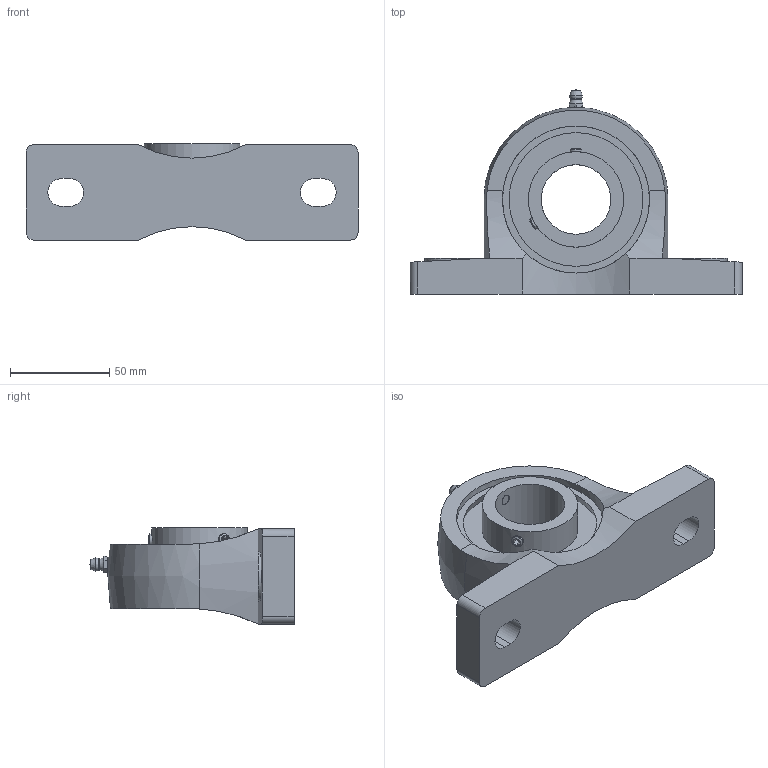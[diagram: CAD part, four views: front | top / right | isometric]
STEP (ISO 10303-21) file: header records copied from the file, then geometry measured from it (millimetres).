
FILE_DESCRIPTION(/* description */ (''),/* implementation_level */ '2;1');
FILE_NAME(/* name */ 'C:\Users\UGijyutu_200702\Desktop\09.プラスチックハウジング\MBPPL200V\MBPPL200V\MBPPL207V.stp',/* time_stamp */ '2023-02-10T13:59:28+09:00',/* author */ ('UGijyutu_200702'),/* organization */ (''),/* preprocessor_version */ 'ST-DEVELOPER v18',/* originating_system */ 'Autodesk Inventor 2020',/* authorisation */ '');
FILE_SCHEMA (('AUTOMOTIVE_DESIGN { 1 0 10303 214 3 1 1 }'));
Length unit declared in the file: millimetre
Products named in the file (4): MBPPL207V; PPL207; MB7 V; 1/4-28UNF-2A
Assembly tree (3 placements, depth 2):
  MBPPL207V
    PPL207
    MB7 V
    1/4-28UNF-2A
Bounding box: 167 x 102.8 x 48.4 mm (x, y, z)
Volume: 261454.9 mm3; surface area: 55558.4 mm2
Topology: 3 solids, 3 shells, 107 faces, 279 edges, 187 vertices
Faces by surface type: plane 54, cylinder 31, cone 15, sphere 4, torus 2, bspline 1
Full cylindrical faces by diameter (mm): 3.2 x1, 5.359 x1, 6 x2, 6.35 x1, 35 x1, 48 x1, 74 x2
Entity records: 3850 total; most frequent: CARTESIAN_POINT 1007, ORIENTED_EDGE 556, DIRECTION 544, EDGE_CURVE 278, AXIS2_PLACEMENT_3D 211, VERTEX_POINT 187, EDGE_LOOP 127, LINE 122
